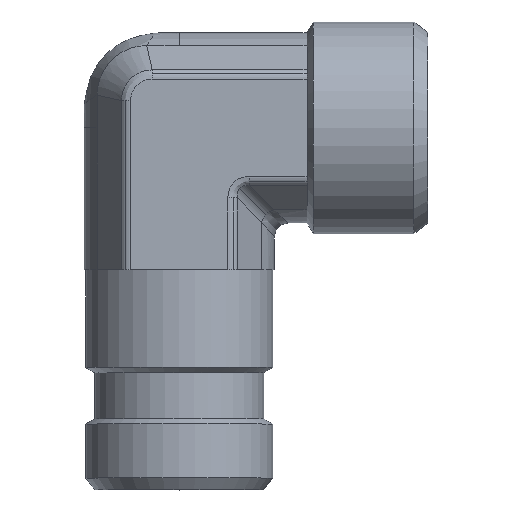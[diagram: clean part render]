
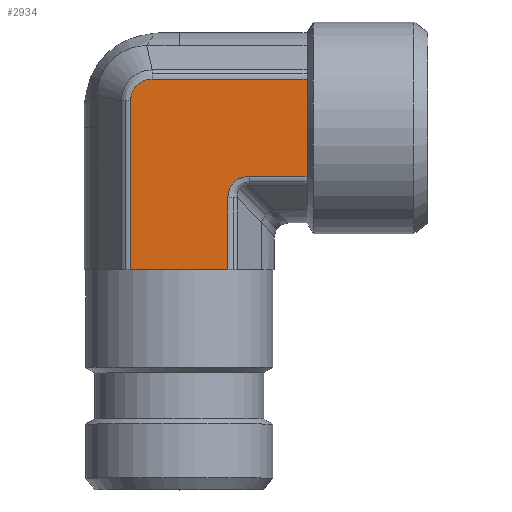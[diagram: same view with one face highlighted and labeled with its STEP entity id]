
A CAD part, top view. The second image highlights one B-rep face of the part: STEP entity #2934.
In plain terms, the highlighted planar face has unit normal (0, 0, 1) as drawn and (0, -1, 0) by its records, which use the part's own axes.
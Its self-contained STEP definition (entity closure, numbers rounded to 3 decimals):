
#361=CARTESIAN_POINT('',(5.387,-13.375,6.856));
#362=VERTEX_POINT('',#361);
#370=CARTESIAN_POINT('',(15.5,-13.375,6.856));
#371=VERTEX_POINT('',#370);
#372=CARTESIAN_POINT('',(5.387,-13.375,6.856));
#373=DIRECTION('',(1.0,0.0,0.0));
#374=VECTOR('',#373,10.113);
#375=LINE('',#372,#374);
#376=EDGE_CURVE('',#362,#371,#375,.T.);
#485=CARTESIAN_POINT('',(-11.356,-13.375,-3.819));
#486=VERTEX_POINT('',#485);
#494=CARTESIAN_POINT('',(-11.356,-13.375,18.0));
#495=VERTEX_POINT('',#494);
#496=CARTESIAN_POINT('',(-11.356,-13.375,-3.819));
#497=DIRECTION('',(0.0,0.0,1.0));
#498=VECTOR('',#497,21.819);
#499=LINE('',#496,#498);
#500=EDGE_CURVE('',#486,#495,#499,.T.);
#1785=CARTESIAN_POINT('',(-4.5,-13.375,18.0));
#1786=VERTEX_POINT('',#1785);
#1851=CARTESIAN_POINT('',(-4.5,-13.375,18.0));
#1852=DIRECTION('',(-1.0,0.0,0.0));
#1853=VECTOR('',#1852,6.856);
#1854=LINE('',#1851,#1853);
#1855=EDGE_CURVE('',#1786,#495,#1854,.T.);
#1920=CARTESIAN_POINT('',(2.356,-13.375,18.0));
#1921=VERTEX_POINT('',#1920);
#1922=CARTESIAN_POINT('',(2.356,-13.375,18.0));
#1923=DIRECTION('',(-1.0,0.0,0.0));
#1924=VECTOR('',#1923,6.856);
#1925=LINE('',#1922,#1924);
#1926=EDGE_CURVE('',#1921,#1786,#1925,.T.);
#2548=CARTESIAN_POINT('',(-8.319,-13.375,-6.856));
#2549=VERTEX_POINT('',#2548);
#2557=CARTESIAN_POINT('',(-11.356,-13.375,-3.819));
#2558=CARTESIAN_POINT('',(-11.356,-13.375,-4.016));
#2559=CARTESIAN_POINT('',(-11.336,-13.375,-4.216));
#2560=CARTESIAN_POINT('',(-11.235,-13.375,-4.725));
#2561=CARTESIAN_POINT('',(-11.123,-13.375,-5.025));
#2562=CARTESIAN_POINT('',(-10.717,-13.375,-5.748));
#2563=CARTESIAN_POINT('',(-10.355,-13.375,-6.127));
#2564=CARTESIAN_POINT('',(-9.441,-13.375,-6.697));
#2565=CARTESIAN_POINT('',(-8.88,-13.375,-6.856));
#2566=CARTESIAN_POINT('',(-8.319,-13.375,-6.856));
#2567=B_SPLINE_CURVE_WITH_KNOTS('',3,(#2557,#2558,#2559,#2560,#2561,#2562,#2563,#2564,#2565,#2566),.UNSPECIFIED.,.F.,.U.,(4,2,2,2,4),(-4.746,-4.152,-3.203,-1.685,0.0),.UNSPECIFIED.);
#2568=EDGE_CURVE('',#2549,#486,#2567,.F.);
#2594=CARTESIAN_POINT('',(15.5,-13.375,-6.856));
#2595=VERTEX_POINT('',#2594);
#2603=CARTESIAN_POINT('',(15.5,-13.375,-6.856));
#2604=DIRECTION('',(-1.0,0.0,0.0));
#2605=VECTOR('',#2604,23.819);
#2606=LINE('',#2603,#2605);
#2607=EDGE_CURVE('',#2595,#2549,#2606,.T.);
#2739=CARTESIAN_POINT('',(2.356,-13.375,9.887));
#2740=VERTEX_POINT('',#2739);
#2741=CARTESIAN_POINT('',(2.356,-13.375,18.0));
#2742=DIRECTION('',(0.0,0.0,-1.0));
#2743=VECTOR('',#2742,8.113);
#2744=LINE('',#2741,#2743);
#2745=EDGE_CURVE('',#1921,#2740,#2744,.T.);
#2878=CARTESIAN_POINT('',(6.397,-13.375,10.897));
#2879=DIRECTION('',(0.,-1.0,0.));
#2880=DIRECTION('',(-0.707,0.,-0.707));
#2881=AXIS2_PLACEMENT_3D('',#2878,#2879,#2880);
#2882=ELLIPSE('',#2881,4.518,3.5);
#2883=EDGE_CURVE('',#2740,#362,#2882,.T.);
#2913=CARTESIAN_POINT('',(-4.5,-13.375,-3.175));
#2914=DIRECTION('',(0.0,-1.0,0.0));
#2915=DIRECTION('',(0.0,0.0,-1.0));
#2916=AXIS2_PLACEMENT_3D('',#2913,#2914,#2915);
#2917=PLANE('',#2916);
#2918=ORIENTED_EDGE('',*,*,#2607,.F.);
#2919=CARTESIAN_POINT('',(15.5,-13.375,-6.856));
#2920=DIRECTION('',(0.0,0.0,1.0));
#2921=VECTOR('',#2920,13.712);
#2922=LINE('',#2919,#2921);
#2923=EDGE_CURVE('',#2595,#371,#2922,.T.);
#2924=ORIENTED_EDGE('',*,*,#2923,.T.);
#2925=ORIENTED_EDGE('',*,*,#376,.F.);
#2926=ORIENTED_EDGE('',*,*,#2883,.F.);
#2927=ORIENTED_EDGE('',*,*,#2745,.F.);
#2928=ORIENTED_EDGE('',*,*,#1926,.T.);
#2929=ORIENTED_EDGE('',*,*,#1855,.T.);
#2930=ORIENTED_EDGE('',*,*,#500,.F.);
#2931=ORIENTED_EDGE('',*,*,#2568,.F.);
#2932=EDGE_LOOP('',(#2918,#2924,#2925,#2926,#2927,#2928,#2929,#2930,#2931));
#2933=FACE_OUTER_BOUND('',#2932,.T.);
#2934=ADVANCED_FACE('',(#2933),#2917,.T.);
